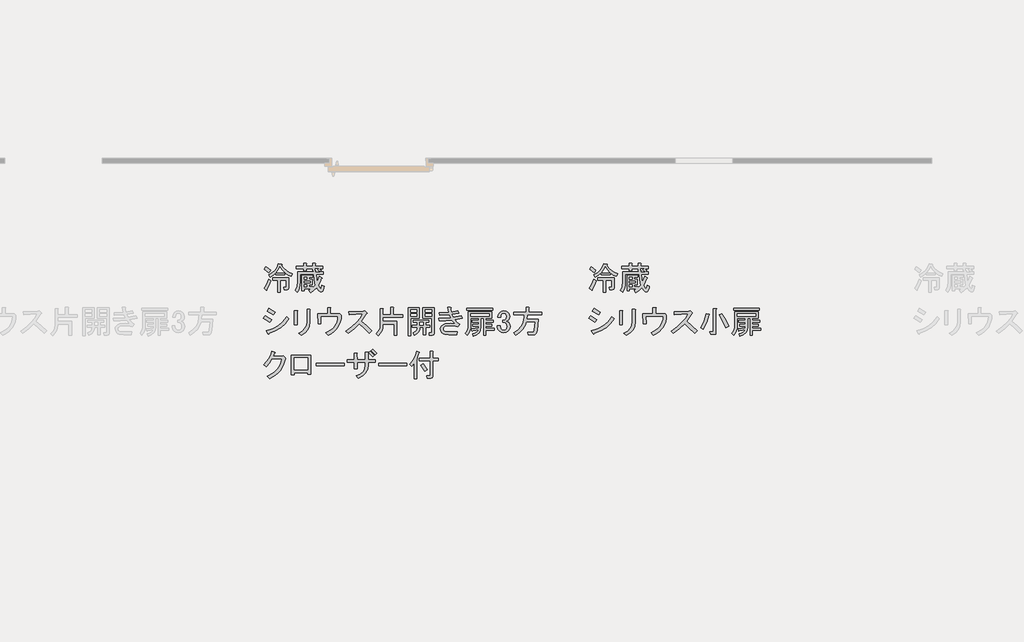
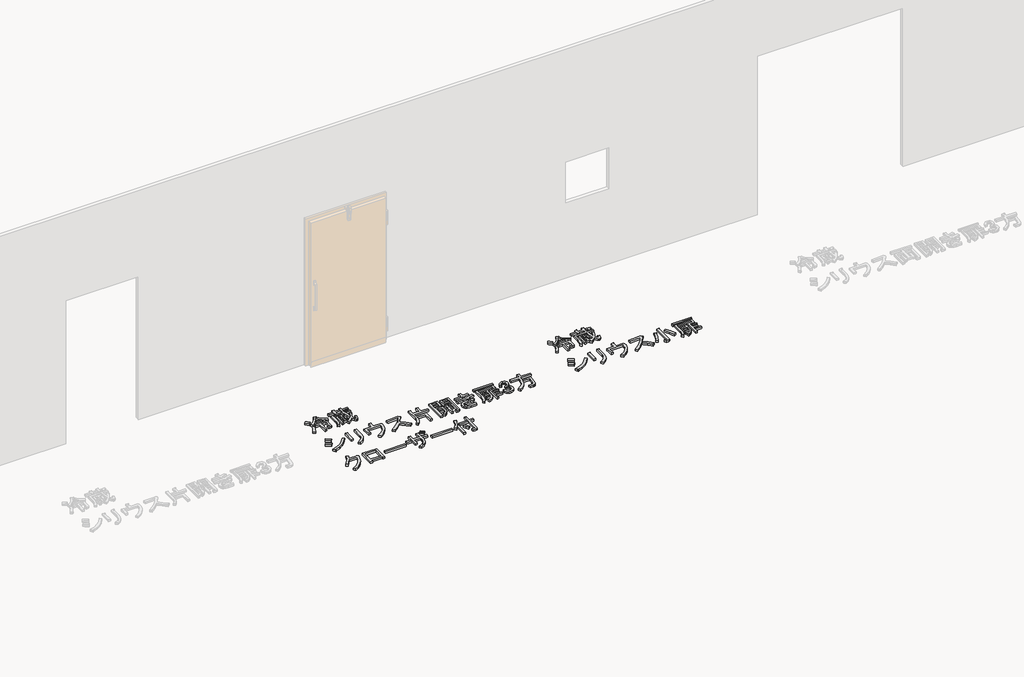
# One storey, part 74 of 117: 2 proxies.
"""IFC4 building model written with IfcOpenShell, lengths in millimetres."""

from ifc_helpers import new_model, si_unit, frame, origin, place, context, project, spatial, polyline, outline, extrude, element, save

model = new_model("IFC4")

# Units and contexts
model_context = context("Model", 3, world=origin())
ifc_project = project(units=[si_unit("LENGTHUNIT", "METRE", prefix="MILLI")], contexts=[model_context])

# Site, building, storey
site = spatial("IfcSite", under=ifc_project)
building = spatial("IfcBuilding", under=site)
storey = spatial("IfcBuildingStorey", under=building, Name="レベル 1", Elevation=500.0)

# Proxies
placement = place(None, origin())
element("IfcBuildingElementProxy", 1, Name="200㎜\u3000MS Pゴシック", ObjectType="200㎜\u3000MS Pゴシック", at=placement, inside=storey, context=model_context, shape_type="SweptSolid", body=[
    extrude(outline(polyline([(-21116.3970532, 18948.5050774), (-21082.7035553, 18967.9021871), (-21056.3378543, 18991.6097656), (-21037.2999504, 19019.6278129), (-21025.5898434, 19051.9563291), (-20994.5544679, 19043.9101206), (-20993.117645, 19040.174381), (-20998.002843, 19038.1628289), (-20979.1804624, 19010.6476696), (-20956.0476131, 18987.874026), (-20928.6042949, 18969.8418981), (-20896.850508, 18956.5512859), (-20908.3450915, 18932.4126605), (-20937.3689149, 18945.9187961), (-20966.9674674, 18965.7469527), (-20966.9674674, 18946.2061607), (-21049.7284688, 18946.2061607), (-21049.7284688, 18964.5974943), (-21074.1544588, 18942.7577856), (-21103.7530113, 18923.2169937), (-21116.3970532, 18948.5050774)]), holes=[polyline([(-20969.2663841, 18968.0458694), (-20995.4165617, 18995.3455052), (-21011.7963432, 19022.0704119), (-21025.5898434, 18993.0465885), (-21046.2800937, 18968.0458694), (-20969.2663841, 18968.0458694)])]), frame((0.0, 0.0, 500.0), z_axis=(0.0, 0.0, 1.0), x_axis=(1.0, 0.0, 0.0)), (0.0, 0.0, 1.0), 25.0),
    extrude(outline(polyline([(-21158.9270122, 18822.0646587), (-21135.9378452, 18861.7209718), (-21117.5465116, 18904.82566), (-21096.8562612, 18892.1816181), (-21114.3855011, 18848.2148362), (-21132.4894701, 18812.8689919), (-21133.0641993, 18806.5469709), (-21137.0873035, 18805.9722417), (-21158.9270122, 18822.0646587)])), frame((0.0, 0.0, 500.0), z_axis=(0.0, 0.0, 1.0), x_axis=(1.0, 0.0, 0.0)), (0.0, 0.0, 1.0), 25.0),
    extrude(outline(polyline([(-21079.6143859, 18897.9289099), (-21079.6143859, 18919.7686186), (-20930.1848002, 18919.7686186), (-20930.1848002, 18825.5130337), (-20934.2079044, 18814.3058148), (-20946.2772171, 18810.5700752), (-20971.5653009, 18810.5700752), (-20976.1631343, 18832.4097838), (-20957.7718006, 18832.4097838), (-20954.3234256, 18833.5592422), (-20953.1739672, 18837.0076172), (-20953.1739672, 18897.9289099), (-21007.1985098, 18897.9289099), (-21007.1985098, 18786.4314498), (-21030.1876768, 18786.4314498), (-21030.1876768, 18897.9289099), (-21079.6143859, 18897.9289099)])), frame((0.0, 0.0, 500.0), z_axis=(0.0, 0.0, 1.0), x_axis=(1.0, 0.0, 0.0)), (0.0, 0.0, 1.0), 25.0),
    extrude(outline(polyline([(-21141.685137, 19022.0704119), (-21120.9948866, 19009.1390055), (-21098.0057196, 18988.7361197), (-21114.0981365, 18965.7469527), (-21155.4786372, 19000.2307032), (-21141.685137, 19022.0704119)])), frame((0.0, 0.0, 500.0), z_axis=(0.0, 0.0, 1.0), x_axis=(1.0, 0.0, 0.0)), (0.0, 0.0, 1.0), 25.0),
    extrude(outline(polyline([(-20711.7877133, 18826.6624921), (-20685.3501712, 18853.1000342), (-20695.4079318, 18900.8025558), (-20700.2931298, 18954.2523692), (-20825.5840901, 18954.2523692), (-20825.5840901, 18879.5375763), (-20827.1645954, 18853.5310811), (-20831.9061111, 18829.536138), (-20839.8086373, 18807.552747), (-20850.8721739, 18787.5809081), (-20871.5624242, 18803.673325), (-20861.5046636, 18821.9209764), (-20854.3205489, 18842.1801798), (-20848.5732572, 18888.7332431), (-20848.5732572, 18976.0920778), (-20701.4425881, 18976.0920778), (-20701.4425881, 18987.5866614), (-20708.3393382, 18987.5866614), (-20708.3393382, 19005.977995), (-20768.1111725, 19005.977995), (-20768.1111725, 18984.1382863), (-20791.1003396, 18984.1382863), (-20791.1003396, 19005.977995), (-20860.0678407, 19005.977995), (-20860.0678407, 19027.8177037), (-20791.1003396, 19027.8177037), (-20791.1003396, 19053.1057874), (-20769.2606309, 19053.1057874), (-20764.3754329, 19050.8068707), (-20768.1111725, 19046.2090373), (-20768.1111725, 19027.8177037), (-20708.3393382, 19027.8177037), (-20708.3393382, 19053.1057874), (-20686.4996295, 19053.1057874), (-20681.6144316, 19050.8068707), (-20685.3501712, 19046.2090373), (-20685.3501712, 19027.8177037), (-20615.2332117, 19027.8177037), (-20615.2332117, 19005.977995), (-20652.015879, 19005.977995), (-20629.0267119, 18989.8855781), (-20642.8202122, 18976.0920778), (-20614.0837534, 18976.0920778), (-20614.0837534, 18954.2523692), (-20678.4534211, 18954.2523692), (-20669.2577543, 18877.2386596), (-20649.7169623, 18932.4126605), (-20626.7277952, 18922.0675353), (-20623.2794202, 18918.3317957), (-20629.0267119, 18916.3202435), (-20642.245483, 18882.4112222), (-20658.9126291, 18849.6516591), (-20646.8433164, 18828.099315), (-20635.9234621, 18820.9152003), (-20631.9003578, 18824.3635754), (-20629.0267119, 18834.7087005), (-20626.7277952, 18849.6516591), (-20604.8880866, 18841.6054507), (-20608.3364616, 18824.3635754), (-20617.819493, 18798.5007625), (-20624.5007197, 18792.0350592), (-20632.475087, 18789.8798248), (-20642.3891653, 18792.394265), (-20652.5906082, 18799.9375854), (-20673.8555877, 18830.1108671), (-20703.4541402, 18802.5238667), (-20730.1790469, 18784.1325331), (-20746.2714639, 18804.8227834), (-20723.2822968, 18818.6162836), (-20789.9508812, 18818.6162836), (-20789.9508812, 18801.3744083), (-20809.4916732, 18801.3744083), (-20809.4916732, 18942.7577856), (-20710.6382549, 18942.7577856), (-20710.6382549, 18924.366452), (-20743.9725471, 18924.366452), (-20743.9725471, 18908.2740351), (-20715.2360883, 18908.2740351), (-20715.2360883, 18855.3989509), (-20743.9725471, 18855.3989509), (-20743.9725471, 18837.0076172), (-20711.7877133, 18837.0076172), (-20711.7877133, 18826.6624921)]), holes=[polyline([(-20680.7523378, 18988.7361197), (-20675.8671398, 18986.1498384), (-20679.6028794, 18982.988828), (-20679.6028794, 18976.0920778), (-20646.2685872, 18976.0920778), (-20669.2577543, 18993.3339531), (-20656.6137124, 19005.977995), (-20685.3501712, 19005.977995), (-20685.3501712, 18988.7361197), (-20680.7523378, 18988.7361197)]), polyline([(-20789.9508812, 18908.2740351), (-20763.5133391, 18908.2740351), (-20763.5133391, 18924.366452), (-20789.9508812, 18924.366452), (-20789.9508812, 18908.2740351)]), polyline([(-20789.9508812, 18873.7902845), (-20734.7768803, 18873.7902845), (-20734.7768803, 18889.8827014), (-20789.9508812, 18889.8827014), (-20789.9508812, 18873.7902845)]), polyline([(-20789.9508812, 18837.0076172), (-20763.5133391, 18837.0076172), (-20763.5133391, 18855.3989509), (-20789.9508812, 18855.3989509), (-20789.9508812, 18837.0076172)])]), frame((0.0, 0.0, 500.0), z_axis=(0.0, 0.0, 1.0), x_axis=(1.0, 0.0, 0.0)), (0.0, 0.0, 1.0), 25.0),
    extrude(outline(polyline([(-21147.4324287, 18570.3447861), (-21088.8100528, 18533.5621188), (-21107.2013864, 18509.4234934), (-21164.674304, 18546.2061607), (-21147.4324287, 18570.3447861)])), frame((0.0, 0.0, 500.0), z_axis=(0.0, 0.0, 1.0), x_axis=(1.0, 0.0, 0.0)), (0.0, 0.0, 1.0), 25.0),
    extrude(outline(polyline([(-21115.2475949, 18638.1628289), (-21056.6252189, 18601.3801616), (-21072.7176358, 18577.2415362), (-21130.1905534, 18614.0242035), (-21115.2475949, 18638.1628289)])), frame((0.0, 0.0, 500.0), z_axis=(0.0, 0.0, 1.0), x_axis=(1.0, 0.0, 0.0)), (0.0, 0.0, 1.0), 25.0),
    extrude(outline(polyline([(-21139.3862203, 18431.2603255), (-21080.620162, 18449.7235003), (-21029.6129476, 18477.5260242), (-20986.3645771, 18514.6678972), (-20950.8750505, 18561.1491193), (-20930.1848002, 18540.4588689), (-20963.5190924, 18496.7794516), (-21004.8995931, 18459.9967843), (-21054.3263022, 18430.1108671), (-21111.7992198, 18407.1217001), (-21116.3970532, 18399.9375854), (-21123.2938033, 18405.9722417), (-21139.3862203, 18431.2603255)])), frame((0.0, 0.0, 500.0), z_axis=(0.0, 0.0, 1.0), x_axis=(1.0, 0.0, 0.0)), (0.0, 0.0, 1.0), 25.0),
    extrude(outline(polyline([(-20735.4665553, 18514.0213268), (-20740.4954356, 18473.9339668), (-20755.5820765, 18439.8812631), (-20780.726478, 18411.8632158), (-20815.92864, 18389.8798248), (-20838.917807, 18409.4206168), (-20805.655356, 18428.9614088), (-20781.732254, 18453.1000342), (-20767.1485012, 18481.836493), (-20761.9040974, 18515.1707852), (-20761.9040974, 18630.1166204), (-20737.765472, 18630.1166204), (-20731.4434511, 18626.6682453), (-20735.4665553, 18620.9209536), (-20735.4665553, 18514.0213268)])), frame((0.0, 0.0, 500.0), z_axis=(0.0, 0.0, 1.0), x_axis=(1.0, 0.0, 0.0)), (0.0, 0.0, 1.0), 25.0),
    extrude(outline(polyline([(-20853.8607656, 18488.7332431), (-20880.2983077, 18488.7332431), (-20880.2983077, 18618.6220369), (-20855.010224, 18618.6220369), (-20848.9755676, 18615.748391), (-20853.8607656, 18609.4263701), (-20853.8607656, 18488.7332431)])), frame((0.0, 0.0, 500.0), z_axis=(0.0, 0.0, 1.0), x_axis=(1.0, 0.0, 0.0)), (0.0, 0.0, 1.0), 25.0),
    extrude(outline(polyline([(-20446.952509, 18574.9426195), (-20448.8383391, 18544.6436157), (-20454.4958294, 18516.3920847), (-20463.92498, 18490.1880263), (-20477.1257907, 18466.0314406), (-20494.0982617, 18443.9223276), (-20514.8423929, 18423.8606873), (-20539.3581843, 18405.8465197), (-20567.6456359, 18389.8798248), (-20589.4853446, 18411.7195335), (-20540.6333647, 18440.1686277), (-20521.3799373, 18456.7639327), (-20505.5748849, 18474.9397429), (-20493.2182077, 18494.6960583), (-20484.3099054, 18516.032879), (-20478.8499782, 18538.9502048), (-20476.8384261, 18563.448036), (-20636.6131371, 18563.448036), (-20634.3142204, 18495.6299932), (-20660.7517625, 18495.6299932), (-20664.2001375, 18588.7361197), (-20573.3929277, 18588.7361197), (-20573.3929277, 18646.2090373), (-20550.4037607, 18646.2090373), (-20542.6449168, 18643.3353914), (-20546.9553856, 18637.0133705), (-20546.9553856, 18588.7361197), (-20460.7460092, 18588.7361197), (-20446.952509, 18574.9426195)])), frame((0.0, 0.0, 500.0), z_axis=(0.0, 0.0, 1.0), x_axis=(1.0, 0.0, 0.0)), (0.0, 0.0, 1.0), 25.0),
    extrude(outline(polyline([(-20262.3035193, 18517.4697019), (-20213.1641748, 18476.6639304), (-20164.5995594, 18430.1108671), (-20187.5887264, 18410.5700752), (-20235.0038834, 18457.1231384), (-20280.6948529, 18495.6299932), (-20328.6847391, 18449.9390237), (-20382.9966463, 18409.4206168), (-20404.836355, 18428.9614088), (-20349.3749895, 18468.6177219), (-20304.8334783, 18508.2740351), (-20271.2118215, 18547.9303482), (-20248.5100191, 18587.5866614), (-20373.8009795, 18579.5404529), (-20377.2493545, 18607.1274534), (-20243.9121857, 18612.8747451), (-20230.1186855, 18616.3231202), (-20211.7273518, 18597.9317865), (-20208.8537059, 18591.322401), (-20216.3251852, 18587.5866614), (-20262.3035193, 18517.4697019)])), frame((0.0, 0.0, 500.0), z_axis=(0.0, 0.0, 1.0), x_axis=(1.0, 0.0, 0.0)), (0.0, 0.0, 1.0), 25.0),
    extrude(outline(polyline([(-20064.1368994, 18637.0133705), (-20058.1022431, 18633.5649954), (-20062.9874411, 18627.8177037), (-20062.9874411, 18579.5404529), (-19991.7210232, 18579.5404529), (-19991.7210232, 18648.507954), (-19966.4329395, 18648.507954), (-19960.3982831, 18645.059579), (-19965.2834811, 18639.3122872), (-19965.2834811, 18579.5404529), (-19880.2235631, 18579.5404529), (-19880.2235631, 18554.2523692), (-20062.9874411, 18554.2523692), (-20062.9874411, 18517.4697019), (-19933.0986473, 18517.4697019), (-19933.0986473, 18388.7303665), (-19959.5361894, 18388.7303665), (-19959.5361894, 18492.1816181), (-20062.9874411, 18492.1816181), (-20062.9874411, 18480.6870346), (-20065.7174047, 18453.7466045), (-20073.9072954, 18429.2487734), (-20087.5571133, 18407.1935412), (-20106.6668584, 18387.5809081), (-20125.0581921, 18405.9722417), (-20107.9599991, 18421.5617706), (-20095.7470041, 18439.5938985), (-20088.4192071, 18460.0686254), (-20085.9766081, 18482.9859513), (-20085.9766081, 18637.0133705), (-20064.1368994, 18637.0133705)])), frame((0.0, 0.0, 500.0), z_axis=(0.0, 0.0, 1.0), x_axis=(1.0, 0.0, 0.0)), (0.0, 0.0, 1.0), 25.0),
    extrude(outline(polyline([(-19726.1961439, 18548.5050774), (-19806.6582286, 18548.5050774), (-19806.6582286, 18387.5809081), (-19829.6473956, 18387.5809081), (-19829.6473956, 18643.9101206), (-19726.1961439, 18643.9101206), (-19726.1961439, 18548.5050774)]), holes=[polyline([(-19749.185311, 18625.518787), (-19806.6582286, 18625.518787), (-19806.6582286, 18604.8285366), (-19749.185311, 18604.8285366), (-19749.185311, 18625.518787)]), polyline([(-19806.6582286, 18566.896411), (-19749.185311, 18566.896411), (-19749.185311, 18586.437203), (-19806.6582286, 18586.437203), (-19806.6582286, 18566.896411)])]), frame((0.0, 0.0, 500.0), z_axis=(0.0, 0.0, 1.0), x_axis=(1.0, 0.0, 0.0)), (0.0, 0.0, 1.0), 25.0),
    extrude(outline(polyline([(-19790.5658116, 18465.7440761), (-19790.5658116, 18484.1354097), (-19744.5874775, 18484.1354097), (-19744.5874775, 18511.7224101), (-19782.5196032, 18511.7224101), (-19782.5196032, 18530.1137438), (-19637.6878508, 18530.1137438), (-19637.6878508, 18511.7224101), (-19667.573768, 18511.7224101), (-19667.573768, 18484.1354097), (-19628.492184, 18484.1354097), (-19628.492184, 18465.7440761), (-19667.573768, 18465.7440761), (-19667.573768, 18396.7765749), (-19690.562935, 18396.7765749), (-19690.562935, 18465.7440761), (-19721.5983105, 18465.7440761), (-19723.9690684, 18442.1083387), (-19733.3802586, 18421.7772941), (-19749.8318813, 18404.7509422), (-19773.3239363, 18391.0292832), (-19784.8185199, 18412.8689919), (-19767.2174389, 18421.7772941), (-19754.6452381, 18433.5592422), (-19747.1019177, 18448.2148362), (-19744.5874775, 18465.7440761), (-19790.5658116, 18465.7440761)]), holes=[polyline([(-19690.562935, 18484.1354097), (-19690.562935, 18511.7224101), (-19721.5983105, 18511.7224101), (-19721.5983105, 18484.1354097), (-19690.562935, 18484.1354097)])]), frame((0.0, 0.0, 500.0), z_axis=(0.0, 0.0, 1.0), x_axis=(1.0, 0.0, 0.0)), (0.0, 0.0, 1.0), 25.0),
    extrude(outline(polyline([(-19695.1607684, 18643.9101206), (-19587.1116833, 18643.9101206), (-19587.1116833, 18409.4206168), (-19591.7095167, 18395.6271166), (-19605.503017, 18391.0292832), (-19633.0900174, 18391.0292832), (-19636.5383925, 18412.8689919), (-19614.6986838, 18412.8689919), (-19611.2503087, 18414.0184502), (-19610.1008504, 18417.4668253), (-19610.1008504, 18548.5050774), (-19652.6308094, 18548.5050774), (-19695.1607684, 18548.5050774), (-19695.1607684, 18643.9101206)]), holes=[polyline([(-19672.1716014, 18566.896411), (-19610.1008504, 18566.896411), (-19610.1008504, 18586.437203), (-19672.1716014, 18586.437203), (-19672.1716014, 18566.896411)]), polyline([(-19610.1008504, 18604.8285366), (-19610.1008504, 18625.518787), (-19672.1716014, 18625.518787), (-19672.1716014, 18604.8285366), (-19610.1008504, 18604.8285366)])]), frame((0.0, 0.0, 500.0), z_axis=(0.0, 0.0, 1.0), x_axis=(1.0, 0.0, 0.0)), (0.0, 0.0, 1.0), 25.0),
    extrude(outline(polyline([(-19426.187514, 18582.988828), (-19412.3940138, 18554.2523692), (-19339.9781376, 18570.3447861), (-19329.6330125, 18546.2061607), (-19399.7499719, 18533.5621188), (-19379.9218154, 18511.147681), (-19354.9210962, 18489.8827014), (-19374.4618882, 18470.3419095), (-19411.53192, 18477.2386596), (-19439.9810143, 18479.5375763), (-19477.9131399, 18476.0892012), (-19490.8445463, 18471.7787324), (-19499.7528486, 18465.7440761), (-19505.7875049, 18457.410503), (-19507.799057, 18448.5022008), (-19506.0748695, 18438.1570756), (-19500.9023069, 18430.1108671), (-19483.373067, 18423.214117), (-19449.1766811, 18420.9152003), (-19379.0597216, 18420.9152003), (-19383.657555, 18395.6271166), (-19453.7745145, 18395.6271166), (-19492.8560985, 18400.22495), (-19507.2243279, 18405.9722417), (-19518.1441822, 18414.0184502), (-19528.4893074, 18429.8235025), (-19531.9376824, 18449.6516591), (-19528.776672, 18465.7440761), (-19519.2936405, 18479.5375763), (-19506.9369633, 18488.0866728), (-19489.4077234, 18494.1931703), (-19438.8315559, 18499.0783683), (-19397.4510552, 18495.6299932), (-19426.187514, 18528.9642854), (-19482.7983379, 18523.7917228), (-19544.5817243, 18522.0675353), (-19548.0300993, 18546.2061607), (-19491.1319109, 18546.7808899), (-19437.6820976, 18550.8039941), (-19450.3261394, 18579.5404529), (-19538.8344325, 18576.0920778), (-19541.1333492, 18599.0812449), (-19456.0734312, 18601.3801616), (-19465.269098, 18648.507954), (-19439.9810143, 18648.507954), (-19433.9463579, 18645.059579), (-19438.8315559, 18639.3122872), (-19433.0842641, 18604.8285366), (-19372.1629715, 18616.3231202), (-19364.116763, 18593.3339531), (-19426.187514, 18582.988828)])), frame((0.0, 0.0, 500.0), z_axis=(0.0, 0.0, 1.0), x_axis=(1.0, 0.0, 0.0)), (0.0, 0.0, 1.0), 25.0),
    extrude(outline(polyline([(-19047.9697379, 18641.6112039), (-19047.9697379, 18623.2198703), (-19287.0570751, 18623.2198703), (-19287.0570751, 18641.6112039), (-19047.9697379, 18641.6112039)])), frame((0.0, 0.0, 500.0), z_axis=(0.0, 0.0, 1.0), x_axis=(1.0, 0.0, 0.0)), (0.0, 0.0, 1.0), 25.0),
    extrude(outline(polyline([(-19235.3314493, 18403.673325), (-19215.5032927, 18410.3545517), (-19199.6982403, 18418.9036482), (-19187.9162922, 18429.3206145), (-19180.1574484, 18441.6054507), (-19235.3314493, 18433.5592422), (-19237.3430014, 18428.6740442), (-19241.078741, 18430.1108671), (-19245.6765744, 18451.9505758), (-19177.8585317, 18458.8473259), (-19177.8585317, 18472.6408262), (-19231.8830742, 18472.6408262), (-19231.8830742, 18491.0321598), (-19177.8585317, 18491.0321598), (-19177.8585317, 18509.4234934), (-19238.7798243, 18509.4234934), (-19238.7798243, 18527.8148271), (-19177.8585317, 18527.8148271), (-19177.8585317, 18548.5050774), (-19252.5733245, 18548.5050774), (-19252.5733245, 18482.9859513), (-19254.5848767, 18455.6144743), (-19260.619533, 18430.9729609), (-19270.6772936, 18409.0614111), (-19284.7581584, 18389.8798248), (-19302.0000337, 18407.1217001), (-19290.433609, 18424.7946223), (-19282.1718771, 18444.4790965), (-19277.214838, 18466.1751229), (-19275.5624916, 18489.8827014), (-19275.5624916, 18605.977995), (-19058.314863, 18605.977995), (-19058.314863, 18548.5050774), (-19114.6383223, 18548.5050774), (-19114.6383223, 18527.8148271), (-19044.5213628, 18527.8148271), (-19044.5213628, 18509.4234934), (-19114.6383223, 18509.4234934), (-19114.6383223, 18491.0321598), (-19057.1654047, 18491.0321598), (-19057.1654047, 18472.6408262), (-19114.6383223, 18472.6408262), (-19114.6383223, 18453.1000342), (-19037.6246127, 18453.1000342), (-19037.6246127, 18434.7087005), (-19114.6383223, 18434.7087005), (-19114.6383223, 18388.7303665), (-19134.1791143, 18388.7303665), (-19134.1791143, 18548.5050774), (-19158.3177397, 18548.5050774), (-19158.3177397, 18462.295701), (-19162.7000496, 18434.4931771), (-19175.8469795, 18412.0068981), (-19197.7585294, 18394.836864), (-19228.4346991, 18382.9830747), (-19235.3314493, 18403.673325)]), holes=[polyline([(-19081.3040301, 18587.5866614), (-19252.5733245, 18587.5866614), (-19252.5733245, 18566.896411), (-19081.3040301, 18566.896411), (-19081.3040301, 18587.5866614)])]), frame((0.0, 0.0, 500.0), z_axis=(0.0, 0.0, 1.0), x_axis=(1.0, 0.0, 0.0)), (0.0, 0.0, 1.0), 25.0),
    extrude(outline(polyline([(-19001.9914038, 18556.5512859), (-18997.680935, 18580.6899113), (-18984.7495285, 18600.2307032), (-18968.0823824, 18611.4379222), (-18947.9668612, 18615.1736618), (-18925.2650588, 18611.4379222), (-18907.7358189, 18600.2307032), (-18897.3906938, 18584.1382863), (-18893.9423187, 18563.448036), (-18896.8159646, 18543.3325148), (-18905.4369022, 18528.9642854), (-18913.7704753, 18522.6422645), (-18922.6787775, 18519.7686186), (-18903.1379855, 18508.2740351), (-18892.7928604, 18492.1816181), (-18889.3444853, 18471.4913678), (-18893.3675895, 18448.5022008), (-18905.4369022, 18430.1108671), (-18924.6903296, 18418.0415544), (-18950.265778, 18414.0184502), (-18972.3928512, 18418.0415544), (-18990.4968203, 18430.1108671), (-19002.566133, 18447.640107), (-19006.5892372, 18468.0429928), (-19006.5892372, 18477.2386596), (-18980.1516951, 18477.2386596), (-18980.1516951, 18469.1924511), (-18977.5654138, 18455.3989509), (-18969.8065699, 18443.9043674), (-18960.8982677, 18437.869711), (-18950.265778, 18435.8581589), (-18936.7596423, 18438.1570756), (-18926.1271526, 18445.0538257), (-18919.2304024, 18456.8357738), (-18916.9314857, 18473.7902845), (-18919.2304024, 18488.1585139), (-18926.1271526, 18499.0783683), (-18935.8975486, 18505.9751184), (-18946.8174029, 18508.2740351), (-18956.0130697, 18508.2740351), (-18956.0130697, 18527.8148271), (-18949.1163196, 18527.8148271), (-18939.058559, 18530.1137438), (-18929.5755276, 18537.0104939), (-18922.6787775, 18548.2177128), (-18920.3798608, 18563.448036), (-18922.6787775, 18576.9541716), (-18929.5755276, 18587.5866614), (-18937.6217361, 18592.759224), (-18947.9668612, 18594.4834115), (-18957.7372572, 18592.4718594), (-18966.3581949, 18586.437203), (-18973.5423096, 18574.3678903), (-18976.70332, 18556.5512859), (-19001.9914038, 18556.5512859)])), frame((0.0, 0.0, 500.0), z_axis=(0.0, 0.0, 1.0), x_axis=(1.0, 0.0, 0.0)), (0.0, 0.0, 1.0), 25.0),
    extrude(outline(polyline([(-18736.4665245, 18538.1599522), (-18629.5668977, 18538.1599522), (-18641.0614813, 18434.7087005), (-18644.869062, 18416.6047315), (-18651.693971, 18403.673325), (-18661.5362081, 18395.9144812), (-18674.3957735, 18393.3281999), (-18720.3741075, 18393.3281999), (-18726.1213993, 18418.6162836), (-18676.6946902, 18418.6162836), (-18670.0853046, 18422.9267524), (-18666.349565, 18435.8581589), (-18657.1538982, 18516.3202435), (-18739.9148995, 18516.3202435), (-18751.6968476, 18480.8307169), (-18772.0997334, 18447.9274716), (-18801.1235568, 18417.6105076), (-18838.7683178, 18389.8798248), (-18854.8607347, 18414.0184502), (-18815.2762627, 18440.2404689), (-18786.1805982, 18472.9281908), (-18767.5737411, 18512.0816159), (-18759.4556915, 18557.7007442), (-18758.3062332, 18578.3909946), (-18854.8607347, 18578.3909946), (-18854.8607347, 18603.6790783), (-18742.2138162, 18603.6790783), (-18742.2138162, 18649.6574124), (-18716.9257325, 18649.6574124), (-18710.8910761, 18646.2090373), (-18715.7762741, 18640.4617456), (-18715.7762741, 18603.6790783), (-18599.6809806, 18603.6790783), (-18599.6809806, 18578.3909946), (-18731.8686911, 18578.3909946), (-18736.4665245, 18538.1599522)])), frame((0.0, 0.0, 500.0), z_axis=(0.0, 0.0, 1.0), x_axis=(1.0, 0.0, 0.0)), (0.0, 0.0, 1.0), 25.0),
    extrude(outline(polyline([(-20964.6685507, 18170.3447861), (-20971.6910229, 18140.1355838), (-20981.8385849, 18112.153457), (-20995.1112368, 18086.3984058), (-21011.5089786, 18062.8704302), (-21031.0318103, 18041.5695301), (-21053.6797319, 18022.4957056), (-21079.4527434, 18005.6489566), (-21108.3508447, 17991.0292832), (-21129.0410951, 18012.8689919), (-21078.3212453, 18040.0249454), (-21057.1640275, 18056.7280121), (-21038.8086144, 18075.514472), (-21023.2550061, 18096.3843252), (-21010.5032025, 18119.3375717), (-21000.5532037, 18144.3742114), (-20993.4050095, 18171.4942444), (-21085.3616777, 18171.4942444), (-21112.373949, 18132.1252959), (-21140.5356786, 18101.377285), (-21163.5248456, 18116.3202435), (-21136.2970509, 18144.4819732), (-21114.3855011, 18174.9426195), (-21097.7901961, 18207.7021825), (-21086.5111361, 18242.7606623), (-21060.073594, 18233.5649954), (-21057.1999481, 18230.1166204), (-21062.3725107, 18226.6682453), (-21075.0165525, 18196.7823282), (-20992.2555512, 18196.7823282), (-20981.910426, 18202.5296199), (-20961.2201757, 18181.8393696), (-20958.0591652, 18174.9426195), (-20964.6685507, 18170.3447861)])), frame((0.0, 0.0, 500.0), z_axis=(0.0, 0.0, 1.0), x_axis=(1.0, 0.0, 0.0)), (0.0, 0.0, 1.0), 25.0),
    extrude(outline(polyline([(-20726.9605635, 18032.4097838), (-20753.3981056, 18032.4097838), (-20753.3981056, 18045.0538257), (-20880.9879827, 18045.0538257), (-20880.9879827, 18026.6624921), (-20907.4255248, 18026.6624921), (-20907.4255248, 18205.977995), (-20726.9605635, 18205.977995), (-20726.9605635, 18032.4097838)]), holes=[polyline([(-20880.9879827, 18180.6899113), (-20880.9879827, 18070.3419095), (-20753.3981056, 18070.3419095), (-20753.3981056, 18180.6899113), (-20880.9879827, 18180.6899113)])]), frame((0.0, 0.0, 500.0), z_axis=(0.0, 0.0, 1.0), x_axis=(1.0, 0.0, 0.0)), (0.0, 0.0, 1.0), 25.0),
    extrude(outline(polyline([(-20676.2004827, 18107.1245767), (-20676.2004827, 18132.4126605), (-20419.8712702, 18132.4126605), (-20419.8712702, 18107.1245767), (-20676.2004827, 18107.1245767)])), frame((0.0, 0.0, 500.0), z_axis=(0.0, 0.0, 1.0), x_axis=(1.0, 0.0, 0.0)), (0.0, 0.0, 1.0), 25.0),
    extrude(outline(polyline([(-20199.4511366, 18165.7469527), (-20131.6330938, 18165.7469527), (-20131.6330938, 18140.4588689), (-20198.3016783, 18140.4588689), (-20198.3016783, 18118.6191602), (-20203.9771289, 18078.6036414), (-20211.0714421, 18060.9127589), (-20221.0034807, 18044.7664611), (-20249.3807338, 18017.1076195), (-20289.1088881, 17995.6271166), (-20307.5002217, 18016.3173669), (-20271.2922836, 18032.9126719), (-20245.4294707, 18055.1115863), (-20229.9117829, 18082.9141102), (-20224.7392204, 18116.3202435), (-20224.7392204, 18140.4588689), (-20300.6034716, 18140.4588689), (-20299.4540132, 18081.836493), (-20324.742097, 18081.836493), (-20325.8915553, 18140.4588689), (-20390.2612231, 18140.4588689), (-20390.2612231, 18165.7469527), (-20325.8915553, 18165.7469527), (-20327.0410137, 18226.6682453), (-20302.9023883, 18226.6682453), (-20296.867732, 18223.2198703), (-20301.75293, 18215.1736618), (-20300.6034716, 18165.7469527), (-20225.8886787, 18165.7469527), (-20225.8886787, 18235.8639122), (-20200.600595, 18235.8639122), (-20194.5659386, 18232.4155371), (-20199.4511366, 18224.3693286), (-20199.4511366, 18165.7469527)])), frame((0.0, 0.0, 500.0), z_axis=(0.0, 0.0, 1.0), x_axis=(1.0, 0.0, 0.0)), (0.0, 0.0, 1.0), 25.0),
    extrude(outline(polyline([(-20178.7608863, 18241.6112039), (-20141.978219, 18203.6790783), (-20156.9211776, 18191.0350364), (-20191.4049282, 18227.8177037), (-20178.7608863, 18241.6112039)])), frame((0.0, 0.0, 500.0), z_axis=(0.0, 0.0, 1.0), x_axis=(1.0, 0.0, 0.0)), (0.0, 0.0, 1.0), 25.0),
    extrude(outline(polyline([(-20156.9211776, 18261.1519959), (-20120.1385103, 18223.2198703), (-20135.0814689, 18210.5758284), (-20169.5652195, 18247.3584957), (-20156.9211776, 18261.1519959)])), frame((0.0, 0.0, 500.0), z_axis=(0.0, 0.0, 1.0), x_axis=(1.0, 0.0, 0.0)), (0.0, 0.0, 1.0), 25.0),
    extrude(outline(polyline([(-20099.44826, 18107.1245767), (-20099.44826, 18132.4126605), (-19843.1190475, 18132.4126605), (-19843.1190475, 18107.1245767), (-20099.44826, 18107.1245767)])), frame((0.0, 0.0, 500.0), z_axis=(0.0, 0.0, 1.0), x_axis=(1.0, 0.0, 0.0)), (0.0, 0.0, 1.0), 25.0),
    extrude(outline(polyline([(-19730.747999, 18227.8177037), (-19739.3689366, 18199.0812449), (-19751.4382493, 18170.3447861), (-19745.1162284, 18166.896411), (-19749.1393326, 18161.1491193), (-19749.1393326, 17991.0292832), (-19772.1284997, 17991.0292832), (-19772.1284997, 18133.5621188), (-19797.4165834, 18102.5267433), (-19815.807917, 18123.2169937), (-19793.2497969, 18148.4332363), (-19775.0021455, 18176.9541716), (-19761.064963, 18208.7797997), (-19751.4382493, 18243.9101206), (-19727.2996239, 18234.7144538), (-19725.862801, 18230.6913496), (-19730.747999, 18227.8177037)])), frame((0.0, 0.0, 500.0), z_axis=(0.0, 0.0, 1.0), x_axis=(1.0, 0.0, 0.0)), (0.0, 0.0, 1.0), 25.0),
    extrude(outline(polyline([(-19623.8483722, 18177.2415362), (-19623.8483722, 18242.7606623), (-19602.0086636, 18242.7606623), (-19597.1234656, 18240.4617456), (-19600.8592052, 18235.8639122), (-19600.8592052, 18177.2415362), (-19553.7314128, 18177.2415362), (-19553.7314128, 18155.4018275), (-19600.8592052, 18155.4018275), (-19600.8592052, 18012.8689919), (-19605.4570386, 17999.0754916), (-19619.2505388, 17994.4776582), (-19653.7342894, 17994.4776582), (-19659.4815812, 18016.3173669), (-19628.4462057, 18016.3173669), (-19624.9978306, 18017.4668253), (-19623.8483722, 18020.9152003), (-19623.8483722, 18155.4018275), (-19727.2996239, 18155.4018275), (-19727.2996239, 18177.2415362), (-19623.8483722, 18177.2415362)])), frame((0.0, 0.0, 500.0), z_axis=(0.0, 0.0, 1.0), x_axis=(1.0, 0.0, 0.0)), (0.0, 0.0, 1.0), 25.0),
    extrude(outline(polyline([(-19690.5169567, 18125.5159104), (-19654.8837478, 18071.4913678), (-19677.8729148, 18056.5484092), (-19694.5400609, 18087.0090556), (-19712.3566654, 18111.7224101), (-19690.5169567, 18125.5159104)])), frame((0.0, 0.0, 500.0), z_axis=(0.0, 0.0, 1.0), x_axis=(1.0, 0.0, 0.0)), (0.0, 0.0, 1.0), 25.0),
])
element("IfcBuildingElementProxy", 2, Name="200㎜\u3000MS Pゴシック", ObjectType="200㎜\u3000MS Pゴシック", at=placement, inside=storey, context=model_context, shape_type="SweptSolid", body=[
    extrude(outline(polyline([(-18116.3970532, 18948.5050774), (-18082.7035553, 18967.9021871), (-18056.3378543, 18991.6097656), (-18037.2999504, 19019.6278129), (-18025.5898434, 19051.9563291), (-17994.5544679, 19043.9101206), (-17993.117645, 19040.174381), (-17998.002843, 19038.1628289), (-17979.1804624, 19010.6476696), (-17956.0476131, 18987.874026), (-17928.6042949, 18969.8418981), (-17896.850508, 18956.5512859), (-17908.3450915, 18932.4126605), (-17937.3689149, 18945.9187961), (-17966.9674674, 18965.7469527), (-17966.9674674, 18946.2061607), (-18049.7284688, 18946.2061607), (-18049.7284688, 18964.5974943), (-18074.1544588, 18942.7577856), (-18103.7530113, 18923.2169937), (-18116.3970532, 18948.5050774)]), holes=[polyline([(-17969.2663841, 18968.0458694), (-17995.4165617, 18995.3455052), (-18011.7963432, 19022.0704119), (-18025.5898434, 18993.0465885), (-18046.2800937, 18968.0458694), (-17969.2663841, 18968.0458694)])]), frame((0.0, 0.0, 500.0), z_axis=(0.0, 0.0, 1.0), x_axis=(1.0, 0.0, 0.0)), (0.0, 0.0, 1.0), 25.0),
    extrude(outline(polyline([(-18158.9270122, 18822.0646587), (-18135.9378452, 18861.7209718), (-18117.5465116, 18904.82566), (-18096.8562612, 18892.1816181), (-18114.3855011, 18848.2148362), (-18132.4894701, 18812.8689919), (-18133.0641993, 18806.5469709), (-18137.0873035, 18805.9722417), (-18158.9270122, 18822.0646587)])), frame((0.0, 0.0, 500.0), z_axis=(0.0, 0.0, 1.0), x_axis=(1.0, 0.0, 0.0)), (0.0, 0.0, 1.0), 25.0),
    extrude(outline(polyline([(-18079.6143859, 18897.9289099), (-18079.6143859, 18919.7686186), (-17930.1848002, 18919.7686186), (-17930.1848002, 18825.5130337), (-17934.2079044, 18814.3058148), (-17946.2772171, 18810.5700752), (-17971.5653009, 18810.5700752), (-17976.1631343, 18832.4097838), (-17957.7718006, 18832.4097838), (-17954.3234256, 18833.5592422), (-17953.1739672, 18837.0076172), (-17953.1739672, 18897.9289099), (-18007.1985098, 18897.9289099), (-18007.1985098, 18786.4314498), (-18030.1876768, 18786.4314498), (-18030.1876768, 18897.9289099), (-18079.6143859, 18897.9289099)])), frame((0.0, 0.0, 500.0), z_axis=(0.0, 0.0, 1.0), x_axis=(1.0, 0.0, 0.0)), (0.0, 0.0, 1.0), 25.0),
    extrude(outline(polyline([(-18141.685137, 19022.0704119), (-18120.9948866, 19009.1390055), (-18098.0057196, 18988.7361197), (-18114.0981365, 18965.7469527), (-18155.4786372, 19000.2307032), (-18141.685137, 19022.0704119)])), frame((0.0, 0.0, 500.0), z_axis=(0.0, 0.0, 1.0), x_axis=(1.0, 0.0, 0.0)), (0.0, 0.0, 1.0), 25.0),
    extrude(outline(polyline([(-17711.7877133, 18826.6624921), (-17685.3501712, 18853.1000342), (-17695.4079318, 18900.8025558), (-17700.2931298, 18954.2523692), (-17825.5840901, 18954.2523692), (-17825.5840901, 18879.5375763), (-17827.1645954, 18853.5310811), (-17831.9061111, 18829.536138), (-17839.8086373, 18807.552747), (-17850.8721739, 18787.5809081), (-17871.5624242, 18803.673325), (-17861.5046636, 18821.9209764), (-17854.3205489, 18842.1801798), (-17848.5732572, 18888.7332431), (-17848.5732572, 18976.0920778), (-17701.4425881, 18976.0920778), (-17701.4425881, 18987.5866614), (-17708.3393382, 18987.5866614), (-17708.3393382, 19005.977995), (-17768.1111725, 19005.977995), (-17768.1111725, 18984.1382863), (-17791.1003396, 18984.1382863), (-17791.1003396, 19005.977995), (-17860.0678407, 19005.977995), (-17860.0678407, 19027.8177037), (-17791.1003396, 19027.8177037), (-17791.1003396, 19053.1057874), (-17769.2606309, 19053.1057874), (-17764.3754329, 19050.8068707), (-17768.1111725, 19046.2090373), (-17768.1111725, 19027.8177037), (-17708.3393382, 19027.8177037), (-17708.3393382, 19053.1057874), (-17686.4996295, 19053.1057874), (-17681.6144316, 19050.8068707), (-17685.3501712, 19046.2090373), (-17685.3501712, 19027.8177037), (-17615.2332117, 19027.8177037), (-17615.2332117, 19005.977995), (-17652.015879, 19005.977995), (-17629.0267119, 18989.8855781), (-17642.8202122, 18976.0920778), (-17614.0837534, 18976.0920778), (-17614.0837534, 18954.2523692), (-17678.4534211, 18954.2523692), (-17669.2577543, 18877.2386596), (-17649.7169623, 18932.4126605), (-17626.7277952, 18922.0675353), (-17623.2794202, 18918.3317957), (-17629.0267119, 18916.3202435), (-17642.245483, 18882.4112222), (-17658.9126291, 18849.6516591), (-17646.8433164, 18828.099315), (-17635.9234621, 18820.9152003), (-17631.9003578, 18824.3635754), (-17629.0267119, 18834.7087005), (-17626.7277952, 18849.6516591), (-17604.8880866, 18841.6054507), (-17608.3364616, 18824.3635754), (-17617.819493, 18798.5007625), (-17624.5007197, 18792.0350592), (-17632.475087, 18789.8798248), (-17642.3891653, 18792.394265), (-17652.5906082, 18799.9375854), (-17673.8555877, 18830.1108671), (-17703.4541402, 18802.5238667), (-17730.1790469, 18784.1325331), (-17746.2714639, 18804.8227834), (-17723.2822968, 18818.6162836), (-17789.9508812, 18818.6162836), (-17789.9508812, 18801.3744083), (-17809.4916732, 18801.3744083), (-17809.4916732, 18942.7577856), (-17710.6382549, 18942.7577856), (-17710.6382549, 18924.366452), (-17743.9725471, 18924.366452), (-17743.9725471, 18908.2740351), (-17715.2360883, 18908.2740351), (-17715.2360883, 18855.3989509), (-17743.9725471, 18855.3989509), (-17743.9725471, 18837.0076172), (-17711.7877133, 18837.0076172), (-17711.7877133, 18826.6624921)]), holes=[polyline([(-17680.7523378, 18988.7361197), (-17675.8671398, 18986.1498384), (-17679.6028794, 18982.988828), (-17679.6028794, 18976.0920778), (-17646.2685872, 18976.0920778), (-17669.2577543, 18993.3339531), (-17656.6137124, 19005.977995), (-17685.3501712, 19005.977995), (-17685.3501712, 18988.7361197), (-17680.7523378, 18988.7361197)]), polyline([(-17789.9508812, 18908.2740351), (-17763.5133391, 18908.2740351), (-17763.5133391, 18924.366452), (-17789.9508812, 18924.366452), (-17789.9508812, 18908.2740351)]), polyline([(-17789.9508812, 18873.7902845), (-17734.7768803, 18873.7902845), (-17734.7768803, 18889.8827014), (-17789.9508812, 18889.8827014), (-17789.9508812, 18873.7902845)]), polyline([(-17789.9508812, 18837.0076172), (-17763.5133391, 18837.0076172), (-17763.5133391, 18855.3989509), (-17789.9508812, 18855.3989509), (-17789.9508812, 18837.0076172)])]), frame((0.0, 0.0, 500.0), z_axis=(0.0, 0.0, 1.0), x_axis=(1.0, 0.0, 0.0)), (0.0, 0.0, 1.0), 25.0),
    extrude(outline(polyline([(-18147.4324287, 18570.3447861), (-18088.8100528, 18533.5621188), (-18107.2013864, 18509.4234934), (-18164.674304, 18546.2061607), (-18147.4324287, 18570.3447861)])), frame((0.0, 0.0, 500.0), z_axis=(0.0, 0.0, 1.0), x_axis=(1.0, 0.0, 0.0)), (0.0, 0.0, 1.0), 25.0),
    extrude(outline(polyline([(-18115.2475949, 18638.1628289), (-18056.6252189, 18601.3801616), (-18072.7176358, 18577.2415362), (-18130.1905534, 18614.0242035), (-18115.2475949, 18638.1628289)])), frame((0.0, 0.0, 500.0), z_axis=(0.0, 0.0, 1.0), x_axis=(1.0, 0.0, 0.0)), (0.0, 0.0, 1.0), 25.0),
    extrude(outline(polyline([(-18139.3862203, 18431.2603255), (-18080.620162, 18449.7235003), (-18029.6129476, 18477.5260242), (-17986.3645771, 18514.6678972), (-17950.8750505, 18561.1491193), (-17930.1848002, 18540.4588689), (-17963.5190924, 18496.7794516), (-18004.8995931, 18459.9967843), (-18054.3263022, 18430.1108671), (-18111.7992198, 18407.1217001), (-18116.3970532, 18399.9375854), (-18123.2938033, 18405.9722417), (-18139.3862203, 18431.2603255)])), frame((0.0, 0.0, 500.0), z_axis=(0.0, 0.0, 1.0), x_axis=(1.0, 0.0, 0.0)), (0.0, 0.0, 1.0), 25.0),
    extrude(outline(polyline([(-17735.4665553, 18514.0213268), (-17740.4954356, 18473.9339668), (-17755.5820765, 18439.8812631), (-17780.726478, 18411.8632158), (-17815.92864, 18389.8798248), (-17838.917807, 18409.4206168), (-17805.655356, 18428.9614088), (-17781.732254, 18453.1000342), (-17767.1485012, 18481.836493), (-17761.9040974, 18515.1707852), (-17761.9040974, 18630.1166204), (-17737.765472, 18630.1166204), (-17731.4434511, 18626.6682453), (-17735.4665553, 18620.9209536), (-17735.4665553, 18514.0213268)])), frame((0.0, 0.0, 500.0), z_axis=(0.0, 0.0, 1.0), x_axis=(1.0, 0.0, 0.0)), (0.0, 0.0, 1.0), 25.0),
    extrude(outline(polyline([(-17853.8607656, 18488.7332431), (-17880.2983077, 18488.7332431), (-17880.2983077, 18618.6220369), (-17855.010224, 18618.6220369), (-17848.9755676, 18615.748391), (-17853.8607656, 18609.4263701), (-17853.8607656, 18488.7332431)])), frame((0.0, 0.0, 500.0), z_axis=(0.0, 0.0, 1.0), x_axis=(1.0, 0.0, 0.0)), (0.0, 0.0, 1.0), 25.0),
    extrude(outline(polyline([(-17446.952509, 18574.9426195), (-17448.8383391, 18544.6436157), (-17454.4958294, 18516.3920847), (-17463.92498, 18490.1880263), (-17477.1257907, 18466.0314406), (-17494.0982617, 18443.9223276), (-17514.8423929, 18423.8606873), (-17539.3581843, 18405.8465197), (-17567.6456359, 18389.8798248), (-17589.4853446, 18411.7195335), (-17540.6333647, 18440.1686277), (-17521.3799373, 18456.7639327), (-17505.5748849, 18474.9397429), (-17493.2182077, 18494.6960583), (-17484.3099054, 18516.032879), (-17478.8499782, 18538.9502048), (-17476.8384261, 18563.448036), (-17636.6131371, 18563.448036), (-17634.3142204, 18495.6299932), (-17660.7517625, 18495.6299932), (-17664.2001375, 18588.7361197), (-17573.3929277, 18588.7361197), (-17573.3929277, 18646.2090373), (-17550.4037607, 18646.2090373), (-17542.6449168, 18643.3353914), (-17546.9553856, 18637.0133705), (-17546.9553856, 18588.7361197), (-17460.7460092, 18588.7361197), (-17446.952509, 18574.9426195)])), frame((0.0, 0.0, 500.0), z_axis=(0.0, 0.0, 1.0), x_axis=(1.0, 0.0, 0.0)), (0.0, 0.0, 1.0), 25.0),
    extrude(outline(polyline([(-17262.3035193, 18517.4697019), (-17213.1641748, 18476.6639304), (-17164.5995594, 18430.1108671), (-17187.5887264, 18410.5700752), (-17235.0038834, 18457.1231384), (-17280.6948529, 18495.6299932), (-17328.6847391, 18449.9390237), (-17382.9966463, 18409.4206168), (-17404.836355, 18428.9614088), (-17349.3749895, 18468.6177219), (-17304.8334783, 18508.2740351), (-17271.2118215, 18547.9303482), (-17248.5100191, 18587.5866614), (-17373.8009795, 18579.5404529), (-17377.2493545, 18607.1274534), (-17243.9121857, 18612.8747451), (-17230.1186855, 18616.3231202), (-17211.7273518, 18597.9317865), (-17208.8537059, 18591.322401), (-17216.3251852, 18587.5866614), (-17262.3035193, 18517.4697019)])), frame((0.0, 0.0, 500.0), z_axis=(0.0, 0.0, 1.0), x_axis=(1.0, 0.0, 0.0)), (0.0, 0.0, 1.0), 25.0),
    extrude(outline(polyline([(-17133.1044005, 18459.9967843), (-17114.8567492, 18490.5292718), (-17100.3448375, 18522.3548999), (-17089.5686655, 18555.4736687), (-17082.528233, 18589.8855781), (-17054.9412326, 18582.988828), (-17050.6307638, 18579.5404529), (-17056.090691, 18576.0920778), (-17075.9188475, 18508.5613997), (-17107.8163168, 18443.9043674), (-17133.1044005, 18459.9967843)])), frame((0.0, 0.0, 500.0), z_axis=(0.0, 0.0, 1.0), x_axis=(1.0, 0.0, 0.0)), (0.0, 0.0, 1.0), 25.0),
    extrude(outline(polyline([(-16936.5470223, 18589.8855781), (-16900.0517197, 18532.9873896), (-16873.326813, 18472.6408262), (-16902.0632718, 18459.9967843), (-16926.4892618, 18521.7801707), (-16958.386731, 18578.3909946), (-16936.5470223, 18589.8855781)])), frame((0.0, 0.0, 500.0), z_axis=(0.0, 0.0, 1.0), x_axis=(1.0, 0.0, 0.0)), (0.0, 0.0, 1.0), 25.0),
    extrude(outline(polyline([(-17021.6069404, 18423.214117), (-17018.1585653, 18424.3635754), (-17017.009107, 18427.8119504), (-17017.009107, 18637.0133705), (-16991.7210232, 18637.0133705), (-16985.6863669, 18633.5649954), (-16990.5715649, 18627.8177037), (-16990.5715649, 18412.8689919), (-16994.3073045, 18401.6617729), (-17005.5145235, 18397.9260333), (-17037.6993573, 18397.9260333), (-17046.8950241, 18423.214117), (-17021.6069404, 18423.214117)])), frame((0.0, 0.0, 500.0), z_axis=(0.0, 0.0, 1.0), x_axis=(1.0, 0.0, 0.0)), (0.0, 0.0, 1.0), 25.0),
    extrude(outline(polyline([(-16589.4106, 18641.6112039), (-16589.4106, 18623.2198703), (-16828.4979372, 18623.2198703), (-16828.4979372, 18641.6112039), (-16589.4106, 18641.6112039)])), frame((0.0, 0.0, 500.0), z_axis=(0.0, 0.0, 1.0), x_axis=(1.0, 0.0, 0.0)), (0.0, 0.0, 1.0), 25.0),
    extrude(outline(polyline([(-16776.7723114, 18403.673325), (-16756.9441548, 18410.3545517), (-16741.1391025, 18418.9036482), (-16729.3571544, 18429.3206145), (-16721.5983105, 18441.6054507), (-16776.7723114, 18433.5592422), (-16778.7838635, 18428.6740442), (-16782.5196032, 18430.1108671), (-16787.1174366, 18451.9505758), (-16719.2993938, 18458.8473259), (-16719.2993938, 18472.6408262), (-16773.3239363, 18472.6408262), (-16773.3239363, 18491.0321598), (-16719.2993938, 18491.0321598), (-16719.2993938, 18509.4234934), (-16780.2206865, 18509.4234934), (-16780.2206865, 18527.8148271), (-16719.2993938, 18527.8148271), (-16719.2993938, 18548.5050774), (-16794.0141867, 18548.5050774), (-16794.0141867, 18482.9859513), (-16796.0257388, 18455.6144743), (-16802.0603952, 18430.9729609), (-16812.1181557, 18409.0614111), (-16826.1990205, 18389.8798248), (-16843.4408958, 18407.1217001), (-16831.8744712, 18424.7946223), (-16823.6127393, 18444.4790965), (-16818.6557001, 18466.1751229), (-16817.0033537, 18489.8827014), (-16817.0033537, 18605.977995), (-16599.7557252, 18605.977995), (-16599.7557252, 18548.5050774), (-16656.0791844, 18548.5050774), (-16656.0791844, 18527.8148271), (-16585.962225, 18527.8148271), (-16585.962225, 18509.4234934), (-16656.0791844, 18509.4234934), (-16656.0791844, 18491.0321598), (-16598.6062668, 18491.0321598), (-16598.6062668, 18472.6408262), (-16656.0791844, 18472.6408262), (-16656.0791844, 18453.1000342), (-16579.0654749, 18453.1000342), (-16579.0654749, 18434.7087005), (-16656.0791844, 18434.7087005), (-16656.0791844, 18388.7303665), (-16675.6199764, 18388.7303665), (-16675.6199764, 18548.5050774), (-16699.7586018, 18548.5050774), (-16699.7586018, 18462.295701), (-16704.1409118, 18434.4931771), (-16717.2878417, 18412.0068981), (-16739.1993915, 18394.836864), (-16769.8755613, 18382.9830747), (-16776.7723114, 18403.673325)]), holes=[polyline([(-16622.7448922, 18587.5866614), (-16794.0141867, 18587.5866614), (-16794.0141867, 18566.896411), (-16622.7448922, 18566.896411), (-16622.7448922, 18587.5866614)])]), frame((0.0, 0.0, 500.0), z_axis=(0.0, 0.0, 1.0), x_axis=(1.0, 0.0, 0.0)), (0.0, 0.0, 1.0), 25.0),
])

save(model, "model.ifc")
